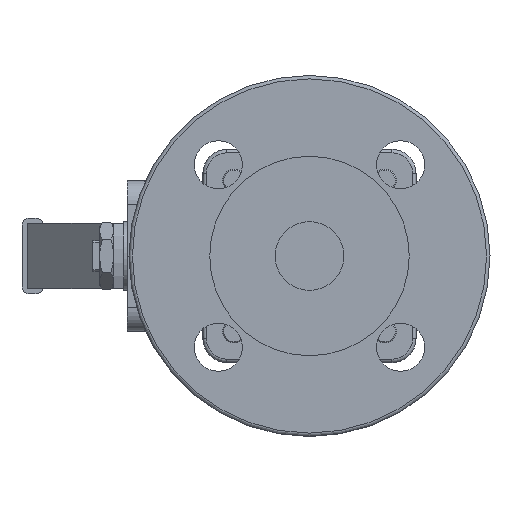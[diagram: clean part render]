
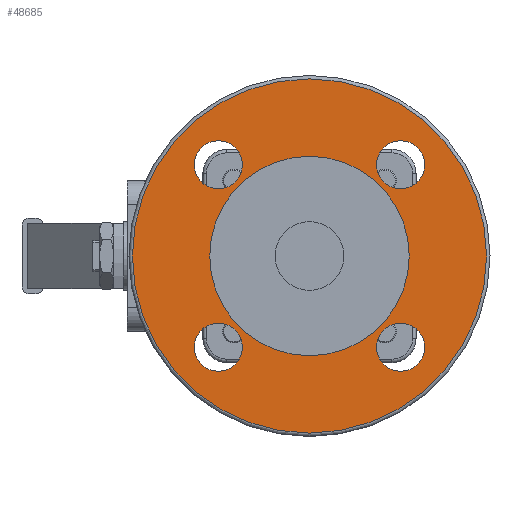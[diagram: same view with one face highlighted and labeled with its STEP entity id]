
A CAD part, left-side view. The second image highlights one B-rep face of the part: STEP entity #48685.
In plain terms, the highlighted planar face has unit normal (-1, 0, 0).
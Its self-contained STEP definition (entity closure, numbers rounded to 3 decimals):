
#43956=CARTESIAN_POINT('',(-52.0,-26.517,-19.517));
#43957=VERTEX_POINT('',#43956);
#43958=CARTESIAN_POINT('',(-52.0,-26.517,-26.517));
#43959=DIRECTION('',(1.0,0.0,0.0));
#43960=DIRECTION('',(0.0,0.0,1.0));
#43961=AXIS2_PLACEMENT_3D('',#43958,#43959,#43960);
#43962=CIRCLE('',#43961,7.);
#43963=EDGE_CURVE('',#43957,#43957,#43962,.T.);
#43984=CARTESIAN_POINT('',(-52.0,-26.517,33.517));
#43985=VERTEX_POINT('',#43984);
#43986=CARTESIAN_POINT('',(-52.0,-26.517,26.517));
#43987=DIRECTION('',(1.0,0.0,0.0));
#43988=DIRECTION('',(0.0,0.0,1.0));
#43989=AXIS2_PLACEMENT_3D('',#43986,#43987,#43988);
#43990=CIRCLE('',#43989,7.);
#43991=EDGE_CURVE('',#43985,#43985,#43990,.T.);
#44012=CARTESIAN_POINT('',(-52.0,26.517,33.517));
#44013=VERTEX_POINT('',#44012);
#44014=CARTESIAN_POINT('',(-52.,26.517,26.517));
#44015=DIRECTION('',(1.0,0.0,0.0));
#44016=DIRECTION('',(0.0,0.0,1.0));
#44017=AXIS2_PLACEMENT_3D('',#44014,#44015,#44016);
#44018=CIRCLE('',#44017,7.);
#44019=EDGE_CURVE('',#44013,#44013,#44018,.T.);
#44040=CARTESIAN_POINT('',(-52.0,26.517,-19.517));
#44041=VERTEX_POINT('',#44040);
#44042=CARTESIAN_POINT('',(-52.,26.517,-26.517));
#44043=DIRECTION('',(1.0,0.0,0.0));
#44044=DIRECTION('',(0.0,0.0,1.0));
#44045=AXIS2_PLACEMENT_3D('',#44042,#44043,#44044);
#44046=CIRCLE('',#44045,7.);
#44047=EDGE_CURVE('',#44041,#44041,#44046,.T.);
#48639=CARTESIAN_POINT('',(-52.,51.5,0.0));
#48640=VERTEX_POINT('',#48639);
#48641=CARTESIAN_POINT('',(-52.0,0.,0.0));
#48642=DIRECTION('',(1.0,0.0,0.0));
#48643=DIRECTION('',(0.0,-1.0,0.0));
#48644=AXIS2_PLACEMENT_3D('',#48641,#48642,#48643);
#48645=CIRCLE('',#48644,51.5);
#48646=EDGE_CURVE('',#48640,#48640,#48645,.T.);
#48654=CARTESIAN_POINT('',(-52.,40.75,0.0));
#48655=DIRECTION('',(-1.0,0.0,0.0));
#48656=DIRECTION('',(0.0,0.0,1.0));
#48657=AXIS2_PLACEMENT_3D('',#48654,#48655,#48656);
#48658=PLANE('',#48657);
#48659=ORIENTED_EDGE('',*,*,#48646,.F.);
#48660=EDGE_LOOP('',(#48659));
#48661=FACE_OUTER_BOUND('',#48660,.T.);
#48662=ORIENTED_EDGE('',*,*,#43963,.T.);
#48663=EDGE_LOOP('',(#48662));
#48664=FACE_BOUND('',#48663,.T.);
#48665=ORIENTED_EDGE('',*,*,#43991,.T.);
#48666=EDGE_LOOP('',(#48665));
#48667=FACE_BOUND('',#48666,.T.);
#48668=ORIENTED_EDGE('',*,*,#44019,.T.);
#48669=EDGE_LOOP('',(#48668));
#48670=FACE_BOUND('',#48669,.T.);
#48671=ORIENTED_EDGE('',*,*,#44047,.T.);
#48672=EDGE_LOOP('',(#48671));
#48673=FACE_BOUND('',#48672,.T.);
#48674=CARTESIAN_POINT('',(-52.,29.,0.0));
#48675=VERTEX_POINT('',#48674);
#48676=CARTESIAN_POINT('',(-52.,0.,0.0));
#48677=DIRECTION('',(1.0,0.0,0.0));
#48678=DIRECTION('',(0.0,1.0,0.0));
#48679=AXIS2_PLACEMENT_3D('',#48676,#48677,#48678);
#48680=CIRCLE('',#48679,29.);
#48681=EDGE_CURVE('',#48675,#48675,#48680,.T.);
#48682=ORIENTED_EDGE('',*,*,#48681,.T.);
#48683=EDGE_LOOP('',(#48682));
#48684=FACE_BOUND('',#48683,.T.);
#48685=ADVANCED_FACE('',(#48661,#48664,#48667,#48670,#48673,#48684),#48658,.T.);
